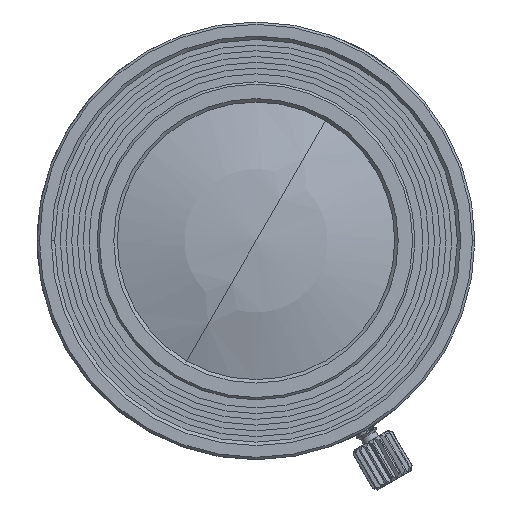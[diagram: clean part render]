
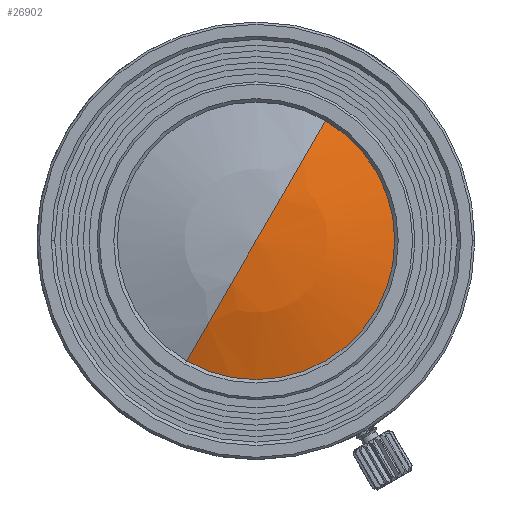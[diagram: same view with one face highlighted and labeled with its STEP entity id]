
A CAD part, left-side view. The second image highlights one B-rep face of the part: STEP entity #26902.
In plain terms, the highlighted spherical face has radius 39.4 mm.
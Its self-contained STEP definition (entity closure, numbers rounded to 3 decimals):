
#26771=CARTESIAN_POINT('',(-44.466,0.,0.));
#26772=DIRECTION('',(1.,0.,0.));
#26773=DIRECTION('',(0.,-0.5,0.866));
#26774=AXIS2_PLACEMENT_3D('',#26771,#26772,#26773);
#26776=CARTESIAN_POINT('',(-7.035,0.,0.));
#26777=DIRECTION('',(0.,-0.866,-0.5));
#26778=DIRECTION('',(-0.95,-0.156,0.27));
#26779=AXIS2_PLACEMENT_3D('',#26776,#26777,#26778);
#26781=CARTESIAN_POINT('',(-7.035,0.,0.));
#26782=DIRECTION('',(0.,-0.866,-0.5));
#26783=DIRECTION('',(-1.,0.,0.));
#26784=AXIS2_PLACEMENT_3D('',#26781,#26782,#26783);
#26865=CARTESIAN_POINT('',(-44.466,-6.15,10.652));
#26866=CARTESIAN_POINT('',(-46.435,0.,0.));
#26867=VERTEX_POINT('',#26865);
#26868=VERTEX_POINT('',#26866);
#26869=CARTESIAN_POINT('',(-44.466,6.15,
-10.652));
#26870=VERTEX_POINT('',#26869);
#26889=CARTESIAN_POINT('',(-7.035,0.,0.));
#26890=DIRECTION('',(1.,0.,0.));
#26891=DIRECTION('',(0.,-0.5,0.866));
#26892=AXIS2_PLACEMENT_3D('',#26889,#26890,#26891);
#26893=SPHERICAL_SURFACE('',#26892,39.4);
#26895=ORIENTED_EDGE('',*,*,#26894,.F.);
#26897=ORIENTED_EDGE('',*,*,#26896,.T.);
#26899=ORIENTED_EDGE('',*,*,#26898,.F.);
#26900=EDGE_LOOP('',(#26895,#26897,#26899));
#26901=FACE_OUTER_BOUND('',#26900,.F.);
#26902=ADVANCED_FACE('',(#26901),#26893,.T.);
#26775=CIRCLE('',#26774,12.3);
#26780=CIRCLE('',#26779,39.4);
#26785=CIRCLE('',#26784,39.4);
#26894=EDGE_CURVE('',#26867,#26868,#26780,.T.);
#26896=EDGE_CURVE('',#26867,#26870,#26775,.T.);
#26898=EDGE_CURVE('',#26868,#26870,#26785,.T.);
